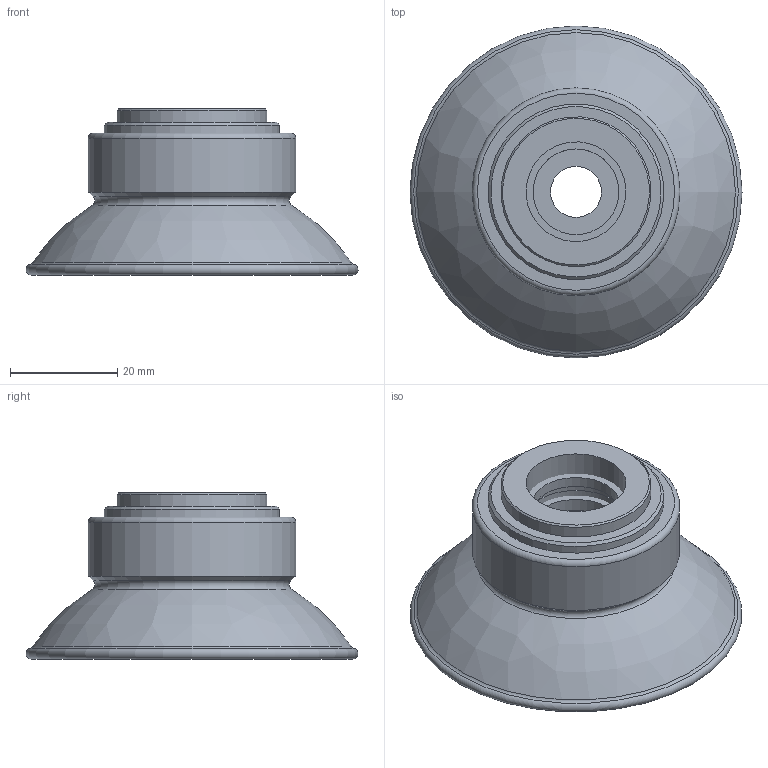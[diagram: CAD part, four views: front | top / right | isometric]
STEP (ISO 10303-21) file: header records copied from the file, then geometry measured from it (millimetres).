
FILE_DESCRIPTION( ( 'Unknown' ), '1' );
FILE_NAME( 'D:/弥龋覆(冠固急)/Smart Cup/寇何侩-唱荤魂TYPE/FCF60-12F.stp', 'Unknown', ( 'Unknown' ), ( 'Unknown' ), 'PSStep 10.0', 'Unknown', ' ' );
FILE_SCHEMA( ( 'AUTOMOTIVE_DESIGN { 1 0 10303 214 1 1 1 1 }' ) );
Length unit declared in the file: millimetre
Products named in the file (3): Assem1; FCF60; VDF-FCF-12F
Bounding box: 61.99 x 61.99 x 31 mm (x, y, z)
Volume: 43535.6 mm3; surface area: 34897.7 mm2
Topology: 4 solids, 4 shells, 100 faces, 172 edges, 100 vertices
Faces by surface type: cylinder 30, plane 28, cone 24, torus 12, bspline 6
Full cylindrical faces by diameter (mm): 9.5 x2, 16 x4, 16.8 x2, 18.631 x2, 24 x4, 28 x2, 30.8 x2, 31.8 x2, 32.8 x6, 38.8 x2, 49.446 x2
Entity records: 1533 total; most frequent: CARTESIAN_POINT 234, DIRECTION 200, AXIS2_PLACEMENT_3D 100, EDGE_LOOP 100, ORIENTED_EDGE 100, FACE_OUTER_BOUND 74, STYLED_ITEM 50, PRESENTATION_STYLE_ASSIGNMENT 50
